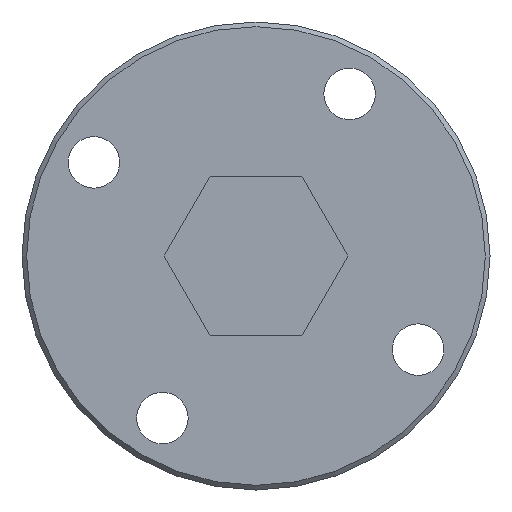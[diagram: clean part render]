
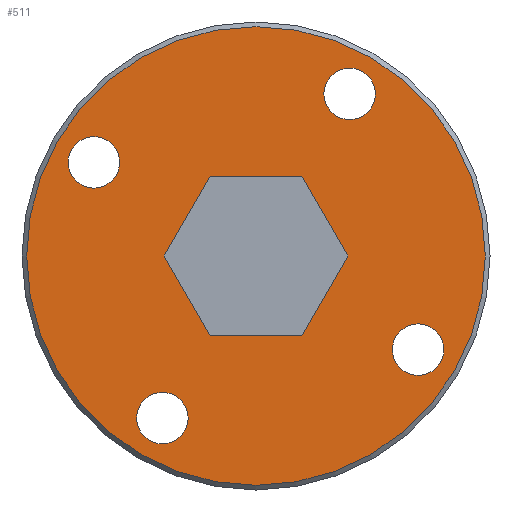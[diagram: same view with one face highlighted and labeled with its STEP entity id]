
A CAD part, left-side view. The second image highlights one B-rep face of the part: STEP entity #511.
In plain terms, the highlighted planar face has unit normal (-1, 0, 0).
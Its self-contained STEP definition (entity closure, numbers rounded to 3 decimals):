
#377=CARTESIAN_POINT('',(130.0,24.5,0.));
#378=VERTEX_POINT('',#377);
#379=CARTESIAN_POINT('',(130.0,0.0,0.0));
#380=DIRECTION('',(1.0,0.0,0.0));
#381=DIRECTION('',(0.0,-1.0,0.0));
#382=AXIS2_PLACEMENT_3D('',#379,#380,#381);
#383=CIRCLE('',#382,24.5);
#384=EDGE_CURVE('',#378,#378,#383,.T.);
#409=CARTESIAN_POINT('',(130.0,0.0,7.5));
#410=DIRECTION('',(-1.0,0.0,0.0));
#411=DIRECTION('',(0.0,0.0,1.0));
#412=AXIS2_PLACEMENT_3D('',#409,#410,#411);
#413=PLANE('',#412);
#414=ORIENTED_EDGE('',*,*,#384,.F.);
#415=EDGE_LOOP('',(#414));
#416=FACE_OUTER_BOUND('',#415,.T.);
#417=CARTESIAN_POINT('',(130.0,-4.907,-8.5));
#418=VERTEX_POINT('',#417);
#419=CARTESIAN_POINT('',(130.0,4.907,-8.5));
#420=VERTEX_POINT('',#419);
#421=CARTESIAN_POINT('',(130.0,-4.907,-8.5));
#422=DIRECTION('',(0.0,1.0,0.0));
#423=VECTOR('',#422,9.815);
#424=LINE('',#421,#423);
#425=EDGE_CURVE('',#418,#420,#424,.T.);
#426=ORIENTED_EDGE('',*,*,#425,.T.);
#427=CARTESIAN_POINT('',(130.0,9.815,0.0));
#428=VERTEX_POINT('',#427);
#429=CARTESIAN_POINT('',(130.0,4.907,-8.5));
#430=DIRECTION('',(0.0,0.5,0.866));
#431=VECTOR('',#430,9.815);
#432=LINE('',#429,#431);
#433=EDGE_CURVE('',#420,#428,#432,.T.);
#434=ORIENTED_EDGE('',*,*,#433,.T.);
#435=CARTESIAN_POINT('',(130.0,4.907,8.5));
#436=VERTEX_POINT('',#435);
#437=CARTESIAN_POINT('',(130.0,9.815,0.0));
#438=DIRECTION('',(0.0,-0.5,0.866));
#439=VECTOR('',#438,9.815);
#440=LINE('',#437,#439);
#441=EDGE_CURVE('',#428,#436,#440,.T.);
#442=ORIENTED_EDGE('',*,*,#441,.T.);
#443=CARTESIAN_POINT('',(130.0,-4.907,8.5));
#444=VERTEX_POINT('',#443);
#445=CARTESIAN_POINT('',(130.0,4.907,8.5));
#446=DIRECTION('',(0.0,-1.0,0.0));
#447=VECTOR('',#446,9.815);
#448=LINE('',#445,#447);
#449=EDGE_CURVE('',#436,#444,#448,.T.);
#450=ORIENTED_EDGE('',*,*,#449,.T.);
#451=CARTESIAN_POINT('',(130.0,-9.815,0.));
#452=VERTEX_POINT('',#451);
#453=CARTESIAN_POINT('',(130.0,-4.907,8.5));
#454=DIRECTION('',(0.0,-0.5,-0.866));
#455=VECTOR('',#454,9.815);
#456=LINE('',#453,#455);
#457=EDGE_CURVE('',#444,#452,#456,.T.);
#458=ORIENTED_EDGE('',*,*,#457,.T.);
#459=CARTESIAN_POINT('',(130.0,-9.815,0.));
#460=DIRECTION('',(0.0,0.5,-0.866));
#461=VECTOR('',#460,9.815);
#462=LINE('',#459,#461);
#463=EDGE_CURVE('',#452,#418,#462,.T.);
#464=ORIENTED_EDGE('',*,*,#463,.T.);
#465=EDGE_LOOP('',(#426,#434,#442,#450,#458,#464));
#466=FACE_BOUND('',#465,.T.);
#467=CARTESIAN_POINT('',(130.0,-7.25,17.321));
#468=VERTEX_POINT('',#467);
#469=CARTESIAN_POINT('',(130.0,-10.,17.321));
#470=DIRECTION('',(1.0,0.0,0.0));
#471=DIRECTION('',(0.0,1.0,0.0));
#472=AXIS2_PLACEMENT_3D('',#469,#470,#471);
#473=CIRCLE('',#472,2.75);
#474=EDGE_CURVE('',#468,#468,#473,.T.);
#475=ORIENTED_EDGE('',*,*,#474,.T.);
#476=EDGE_LOOP('',(#475));
#477=FACE_BOUND('',#476,.T.);
#478=CARTESIAN_POINT('',(130.0,-17.321,-7.25));
#479=VERTEX_POINT('',#478);
#480=CARTESIAN_POINT('',(130.0,-17.321,-10.));
#481=DIRECTION('',(1.0,0.0,0.0));
#482=DIRECTION('',(0.0,0.0,1.0));
#483=AXIS2_PLACEMENT_3D('',#480,#481,#482);
#484=CIRCLE('',#483,2.75);
#485=EDGE_CURVE('',#479,#479,#484,.T.);
#486=ORIENTED_EDGE('',*,*,#485,.T.);
#487=EDGE_LOOP('',(#486));
#488=FACE_BOUND('',#487,.T.);
#489=CARTESIAN_POINT('',(130.0,7.25,-17.321));
#490=VERTEX_POINT('',#489);
#491=CARTESIAN_POINT('',(130.0,10.,-17.321));
#492=DIRECTION('',(1.0,0.0,0.0));
#493=DIRECTION('',(0.0,-1.0,0.0));
#494=AXIS2_PLACEMENT_3D('',#491,#492,#493);
#495=CIRCLE('',#494,2.75);
#496=EDGE_CURVE('',#490,#490,#495,.T.);
#497=ORIENTED_EDGE('',*,*,#496,.T.);
#498=EDGE_LOOP('',(#497));
#499=FACE_BOUND('',#498,.T.);
#500=CARTESIAN_POINT('',(130.0,17.321,7.25));
#501=VERTEX_POINT('',#500);
#502=CARTESIAN_POINT('',(130.0,17.321,10.));
#503=DIRECTION('',(1.0,0.0,0.0));
#504=DIRECTION('',(0.0,0.0,-1.0));
#505=AXIS2_PLACEMENT_3D('',#502,#503,#504);
#506=CIRCLE('',#505,2.75);
#507=EDGE_CURVE('',#501,#501,#506,.T.);
#508=ORIENTED_EDGE('',*,*,#507,.T.);
#509=EDGE_LOOP('',(#508));
#510=FACE_BOUND('',#509,.T.);
#511=ADVANCED_FACE('',(#416,#466,#477,#488,#499,#510),#413,.T.);
